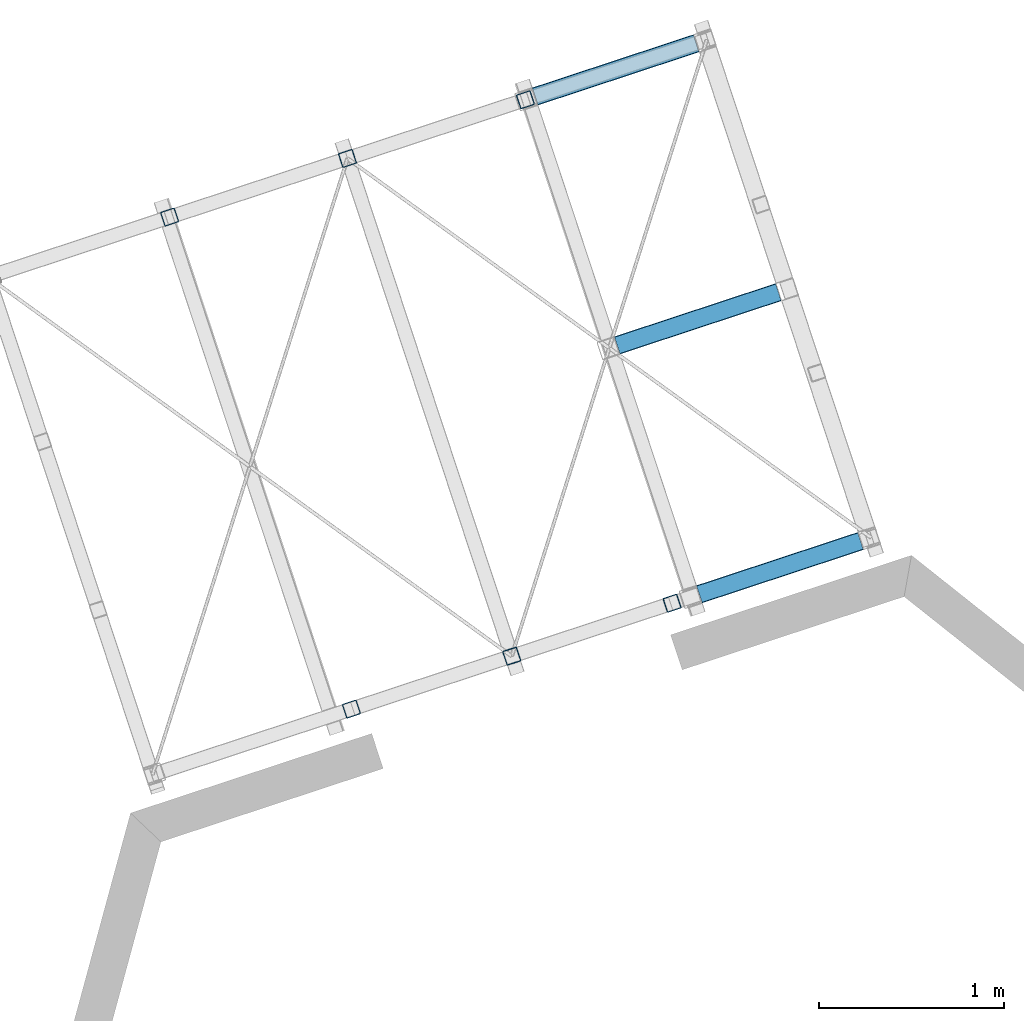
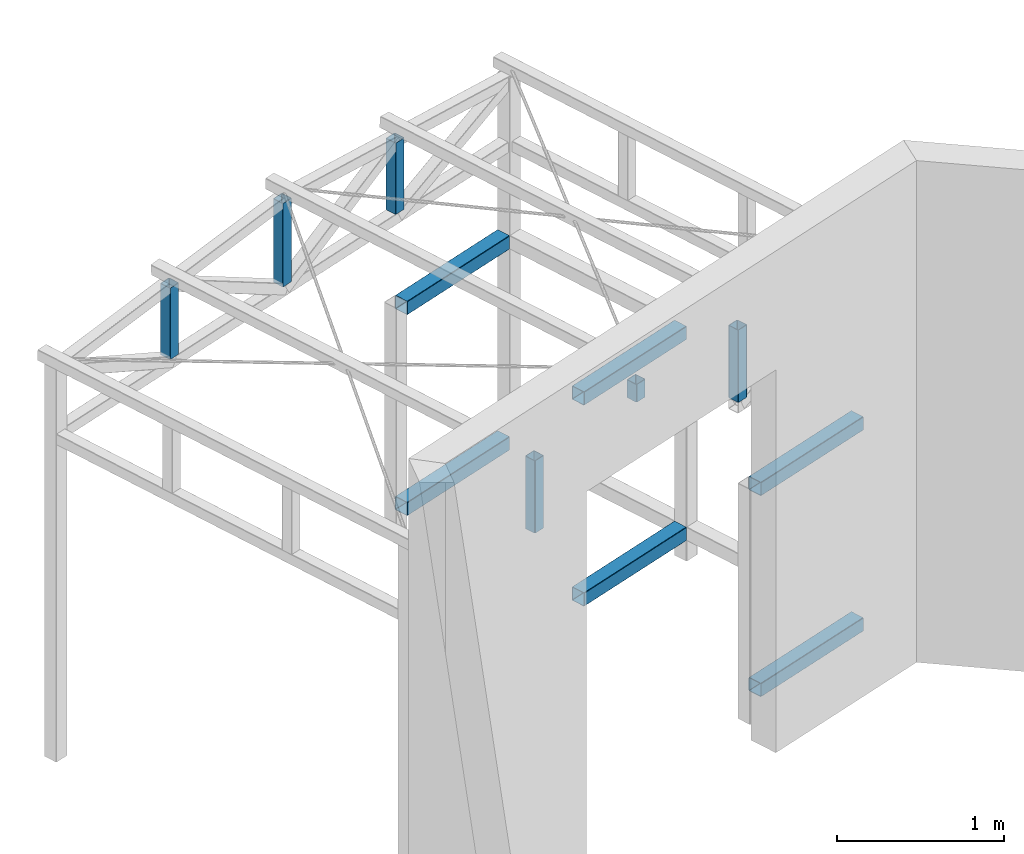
# One storey, part 7 of 9: 12 beams, 12 elements without a shape of their own.
"""IFC2X3 building model written with IfcOpenShell, lengths in millimetres."""

from ifc_helpers import new_model, si_unit, frame, origin_with_axes, origin_2d_with_axis, place, context, subcontext, project, spatial, hollow_rectangle, extrude, material, type_object, element, aggregate, save


model = new_model("IFC2X3")

# Units and contexts
model_context = context("Model", 3, precision=1e-05, world=origin_with_axes())
body_context = subcontext(model_context, "Body", "Model", "MODEL_VIEW")
ifc_project = project(units=[si_unit("LENGTHUNIT", "METRE", prefix="MILLI"), si_unit("AREAUNIT", "SQUARE_METRE"), si_unit("VOLUMEUNIT", "CUBIC_METRE"), si_unit("MASSUNIT", "GRAM", prefix="KILO"), si_unit("TIMEUNIT", "SECOND"), si_unit("PLANEANGLEUNIT", "RADIAN"), si_unit("SOLIDANGLEUNIT", "STERADIAN"), si_unit("THERMODYNAMICTEMPERATUREUNIT", "DEGREE_CELSIUS"), si_unit("LUMINOUSINTENSITYUNIT", "LUMEN")], contexts=[model_context])

# Site, building, storey
site_placement = place(None, origin_with_axes())
site = spatial("IfcSite", under=ifc_project, at=site_placement, Name="01_26-05_PRO_BOULAZAC_CMA-FORMATION", CompositionType="ELEMENT")
building_placement = place(site_placement, origin_with_axes())
building = spatial("IfcBuilding", under=site, at=building_placement, Name="Undefined", CompositionType="ELEMENT")
storey_placement = place(building_placement, origin_with_axes())
storey = spatial("IfcBuildingStorey", under=building, at=storey_placement, Name="Undefined", CompositionType="ELEMENT", Elevation=0.0)

# Assembly, beam
assembly_1_placement = place(storey_placement, origin_with_axes())
assembly_1 = element("IfcElementAssembly", 1, at=assembly_1_placement, inside=storey, Name="TREILLIS", AssemblyPlace="NOTDEFINED", PredefinedType="NOTDEFINED")
ifc_material = material(Name="STEEL/S235JR")
beam_type_1 = type_object("IfcBeamType", Name="TUBE-C-80*80*3", PredefinedType="NOTDEFINED")
beam_1_placement = place(assembly_1_placement, frame((13905.8746290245, 33685.873841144, 2880.00000000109), z_axis=(-0.313379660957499, 0.949627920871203, 0.0), x_axis=(0.0, 0.0, 1.0)))
beam_1 = element("IfcBeam", 2, at=beam_1_placement, type_object=beam_type_1, material=ifc_material, Name="TREILLIS", context=body_context, shape_type="SweptSolid", body=[
    extrude(hollow_rectangle(XDim=80.0, YDim=80.0, WallThickness=3.0, InnerFilletRadius=3.0, OuterFilletRadius=6.0, at=origin_2d_with_axis()), frame((129.847206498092, 0.0, 0.0), z_axis=(-1.0, 0.0, 0.0), x_axis=(0.0, -1.0, 0.0)), (0.0, 0.0, 1.0), 129.85),
])
aggregate(assembly_1, [beam_1])

assembly_2_placement = place(storey_placement, origin_with_axes())
assembly_2 = element("IfcElementAssembly", 3, at=assembly_2_placement, inside=storey, Name="TREILLIS", AssemblyPlace="NOTDEFINED", PredefinedType="NOTDEFINED")
beam_2_placement = place(assembly_2_placement, frame((14774.784176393, 33972.6162308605, 2399.9999999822), z_axis=(-0.313379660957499, 0.949627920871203, 0.0), x_axis=(0.0, 0.0, 1.0)))
beam_2 = element("IfcBeam", 4, at=beam_2_placement, type_object=beam_type_1, material=ifc_material, Name="TREILLIS", context=body_context, shape_type="SweptSolid", body=[
    extrude(hollow_rectangle(XDim=80.0, YDim=80.0, WallThickness=3.0, InnerFilletRadius=3.0, OuterFilletRadius=6.0, at=origin_2d_with_axis()), frame((529.795079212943, 0.0, -3.63797880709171e-12), z_axis=(-1.0, 0.0, 0.0), x_axis=(0.0, -1.0, 0.0)), (0.0, 0.0, 1.0), 529.8),
])
aggregate(assembly_2, [beam_2])

assembly_3_placement = place(storey_placement, origin_with_axes())
assembly_3 = element("IfcElementAssembly", 5, at=assembly_3_placement, inside=storey, Name="TREILLIS", AssemblyPlace="NOTDEFINED", PredefinedType="NOTDEFINED")
beam_3_placement = place(assembly_3_placement, frame((13036.965081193, 33399.1314513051, 2399.99999998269), z_axis=(-0.313379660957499, 0.949627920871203, 0.0), x_axis=(0.0, 0.0, 1.0)))
beam_3 = element("IfcBeam", 6, at=beam_3_placement, type_object=beam_type_1, material=ifc_material, Name="TREILLIS", context=body_context, shape_type="SweptSolid", body=[
    extrude(hollow_rectangle(XDim=80.0, YDim=80.0, WallThickness=3.0, InnerFilletRadius=3.0, OuterFilletRadius=6.0, at=origin_2d_with_axis()), frame((529.795079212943, 0.0, -3.63797880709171e-12), z_axis=(-1.0, 0.0, 0.0), x_axis=(0.0, -1.0, 0.0)), (0.0, 0.0, 1.0), 529.8),
])
aggregate(assembly_3, [beam_3])

assembly_4_placement = place(storey_placement, origin_with_axes())
assembly_4 = element("IfcElementAssembly", 7, at=assembly_4_placement, inside=storey, Name="TREILLIS", AssemblyPlace="NOTDEFINED", PredefinedType="NOTDEFINED")
beam_4_placement = place(assembly_4_placement, frame((13979.7487313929, 36700.8974921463, 2399.99999998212), z_axis=(-0.313379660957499, 0.949627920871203, 0.0), x_axis=(0.0, 0.0, 1.0)))
beam_4 = element("IfcBeam", 8, at=beam_4_placement, type_object=beam_type_1, material=ifc_material, Name="TREILLIS", context=body_context, shape_type="SweptSolid", body=[
    extrude(hollow_rectangle(XDim=80.0, YDim=80.0, WallThickness=3.0, InnerFilletRadius=3.0, OuterFilletRadius=6.0, at=origin_2d_with_axis()), frame((521.046212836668, 0.0, 3.63797880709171e-12), z_axis=(-1.0, 0.0, 0.0), x_axis=(0.0, -1.0, 0.0)), (0.0, 0.0, 1.0), 521.05),
])
aggregate(assembly_4, [beam_4])

assembly_5_placement = place(storey_placement, origin_with_axes())
assembly_5 = element("IfcElementAssembly", 9, at=assembly_5_placement, inside=storey, Name="TREILLIS", AssemblyPlace="NOTDEFINED", PredefinedType="NOTDEFINED")
beam_5_placement = place(assembly_5_placement, frame((12052.0040520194, 36064.7367804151, 2399.99999998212), z_axis=(-0.313379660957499, 0.949627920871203, 0.0), x_axis=(0.0, 0.0, 1.0)))
beam_5 = element("IfcBeam", 10, at=beam_5_placement, type_object=beam_type_1, material=ifc_material, Name="TREILLIS", context=body_context, shape_type="SweptSolid", body=[
    extrude(hollow_rectangle(XDim=80.0, YDim=80.0, WallThickness=3.0, InnerFilletRadius=3.0, OuterFilletRadius=6.0, at=origin_2d_with_axis()), frame((521.046212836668, 0.0, 3.63797880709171e-12), z_axis=(-1.0, 0.0, 0.0), x_axis=(0.0, -1.0, 0.0)), (0.0, 0.0, 1.0), 521.05),
])
aggregate(assembly_5, [beam_5])

assembly_6_placement = place(storey_placement, origin_with_axes())
assembly_6 = element("IfcElementAssembly", 11, at=assembly_6_placement, inside=storey, Name="TREILLIS", AssemblyPlace="NOTDEFINED", PredefinedType="NOTDEFINED")
beam_6_placement = place(assembly_6_placement, frame((13015.8763917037, 36382.8171362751, 2399.99999998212), z_axis=(-0.313379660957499, 0.949627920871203, 0.0), x_axis=(0.0, 0.0, 1.0)))
beam_6 = element("IfcBeam", 12, at=beam_6_placement, type_object=beam_type_1, material=ifc_material, Name="TREILLIS", context=body_context, shape_type="SweptSolid", body=[
    extrude(hollow_rectangle(XDim=80.0, YDim=80.0, WallThickness=3.0, InnerFilletRadius=3.0, OuterFilletRadius=6.0, at=origin_2d_with_axis()), frame((609.847206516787, 0.0, 0.0), z_axis=(-1.0, 0.0, 0.0), x_axis=(0.0, -1.0, 0.0)), (0.0, 0.0, 1.0), 609.85),
])
aggregate(assembly_6, [beam_6])

assembly_7_placement = place(storey_placement, origin_with_axes())
assembly_7 = element("IfcElementAssembly", 13, at=assembly_7_placement, inside=storey, Name="TUBE", AssemblyPlace="NOTDEFINED", PredefinedType="NOTDEFINED")
beam_type_2 = type_object("IfcBeamType", Name="TUBE-C-100*100*3", PredefinedType="NOTDEFINED")
beam_7_placement = place(assembly_7_placement, frame((14031.9782675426, 36718.1333737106, 200.0), z_axis=(0.0, 0.0, 1.0), x_axis=(0.949627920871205, 0.313379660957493, 0.0)))
beam_7 = element("IfcBeam", 14, at=beam_7_placement, type_object=beam_type_2, material=ifc_material, Name="TUBE", context=body_context, shape_type="SweptSolid", body=[
    extrude(hollow_rectangle(XDim=100.0, YDim=100.0, WallThickness=3.0, InnerFilletRadius=3.0, OuterFilletRadius=6.0, at=origin_2d_with_axis()), frame((919.999999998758, 0.0, 2.8421709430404e-14), z_axis=(-1.0, 0.0, 0.0), x_axis=(0.0, -1.0, 0.0)), (0.0, 0.0, 1.0), 920.0),
])
aggregate(assembly_7, [beam_7])

assembly_8_placement = place(storey_placement, origin_with_axes())
assembly_8 = element("IfcElementAssembly", 15, at=assembly_8_placement, inside=storey, Name="TUBE", AssemblyPlace="NOTDEFINED", PredefinedType="NOTDEFINED")
beam_8_placement = place(assembly_8_placement, frame((14476.9773861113, 35369.6617261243, 200.0), z_axis=(0.0, 0.0, 1.0), x_axis=(0.949627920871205, 0.313379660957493, 0.0)))
beam_8 = element("IfcBeam", 16, at=beam_8_placement, type_object=beam_type_2, material=ifc_material, Name="TUBE", context=body_context, shape_type="SweptSolid", body=[
    extrude(hollow_rectangle(XDim=100.0, YDim=100.0, WallThickness=3.0, InnerFilletRadius=3.0, OuterFilletRadius=6.0, at=origin_2d_with_axis()), frame((919.999999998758, 0.0, 2.8421709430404e-14), z_axis=(-1.0, 0.0, 0.0), x_axis=(0.0, -1.0, 0.0)), (0.0, 0.0, 1.0), 920.0),
])
aggregate(assembly_8, [beam_8])

assembly_9_placement = place(storey_placement, origin_with_axes())
assembly_9 = element("IfcElementAssembly", 17, at=assembly_9_placement, inside=storey, Name="TUBE", AssemblyPlace="NOTDEFINED", PredefinedType="NOTDEFINED")
beam_9_placement = place(assembly_9_placement, frame((14921.976504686, 34021.190078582, 199.99999999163), z_axis=(0.0, 0.0, 1.0), x_axis=(0.949627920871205, 0.313379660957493, 0.0)))
beam_9 = element("IfcBeam", 18, at=beam_9_placement, type_object=beam_type_2, material=ifc_material, Name="TUBE", context=body_context, shape_type="SweptSolid", body=[
    extrude(hollow_rectangle(XDim=100.0, YDim=100.0, WallThickness=3.0, InnerFilletRadius=3.0, OuterFilletRadius=6.0, at=origin_2d_with_axis()), frame((919.999999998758, 0.0, 2.8421709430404e-14), z_axis=(-1.0, 0.0, 0.0), x_axis=(0.0, -1.0, 0.0)), (0.0, 0.0, 1.0), 920.0),
])
aggregate(assembly_9, [beam_9])

assembly_10_placement = place(storey_placement, origin_with_axes())
assembly_10 = element("IfcElementAssembly", 19, at=assembly_10_placement, inside=storey, Name="TUBE", AssemblyPlace="NOTDEFINED", PredefinedType="NOTDEFINED")
beam_10_placement = place(assembly_10_placement, frame((14031.9782675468, 36718.1333737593, 1670.0), z_axis=(0.0, 0.0, 1.0), x_axis=(0.949627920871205, 0.313379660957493, 0.0)))
beam_10 = element("IfcBeam", 20, at=beam_10_placement, type_object=beam_type_2, material=ifc_material, Name="TUBE", context=body_context, shape_type="SweptSolid", body=[
    extrude(hollow_rectangle(XDim=100.0, YDim=100.0, WallThickness=3.0, InnerFilletRadius=3.0, OuterFilletRadius=6.0, at=origin_2d_with_axis()), frame((919.999999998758, 0.0, 2.8421709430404e-14), z_axis=(-1.0, 0.0, 0.0), x_axis=(0.0, -1.0, 0.0)), (0.0, 0.0, 1.0), 920.0),
])
aggregate(assembly_10, [beam_10])

assembly_11_placement = place(storey_placement, origin_with_axes())
assembly_11 = element("IfcElementAssembly", 21, at=assembly_11_placement, inside=storey, Name="TUBE", AssemblyPlace="NOTDEFINED", PredefinedType="NOTDEFINED")
beam_11_placement = place(assembly_11_placement, frame((14476.9773861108, 35369.6617261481, 1670.0), z_axis=(0.0, 0.0, 1.0), x_axis=(0.949627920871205, 0.313379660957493, 0.0)))
beam_11 = element("IfcBeam", 22, at=beam_11_placement, type_object=beam_type_2, material=ifc_material, Name="TUBE", context=body_context, shape_type="SweptSolid", body=[
    extrude(hollow_rectangle(XDim=100.0, YDim=100.0, WallThickness=3.0, InnerFilletRadius=3.0, OuterFilletRadius=6.0, at=origin_2d_with_axis()), frame((919.999999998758, 0.0, 2.8421709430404e-14), z_axis=(-1.0, 0.0, 0.0), x_axis=(0.0, -1.0, 0.0)), (0.0, 0.0, 1.0), 920.0),
])
aggregate(assembly_11, [beam_11])

assembly_12_placement = place(storey_placement, origin_with_axes())
assembly_12 = element("IfcElementAssembly", 23, at=assembly_12_placement, inside=storey, Name="TUBE", AssemblyPlace="NOTDEFINED", PredefinedType="NOTDEFINED")
beam_12_placement = place(assembly_12_placement, frame((14921.9765046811, 34021.19007858, 1669.99999999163), z_axis=(0.0, 0.0, 1.0), x_axis=(0.949627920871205, 0.313379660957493, 0.0)))
beam_12 = element("IfcBeam", 24, at=beam_12_placement, type_object=beam_type_2, material=ifc_material, Name="TUBE", context=body_context, shape_type="SweptSolid", body=[
    extrude(hollow_rectangle(XDim=100.0, YDim=100.0, WallThickness=3.0, InnerFilletRadius=3.0, OuterFilletRadius=6.0, at=origin_2d_with_axis()), frame((919.999999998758, 0.0, 2.8421709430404e-14), z_axis=(-1.0, 0.0, 0.0), x_axis=(0.0, -1.0, 0.0)), (0.0, 0.0, 1.0), 920.0),
])
aggregate(assembly_12, [beam_12])

save(model, "model.ifc")
